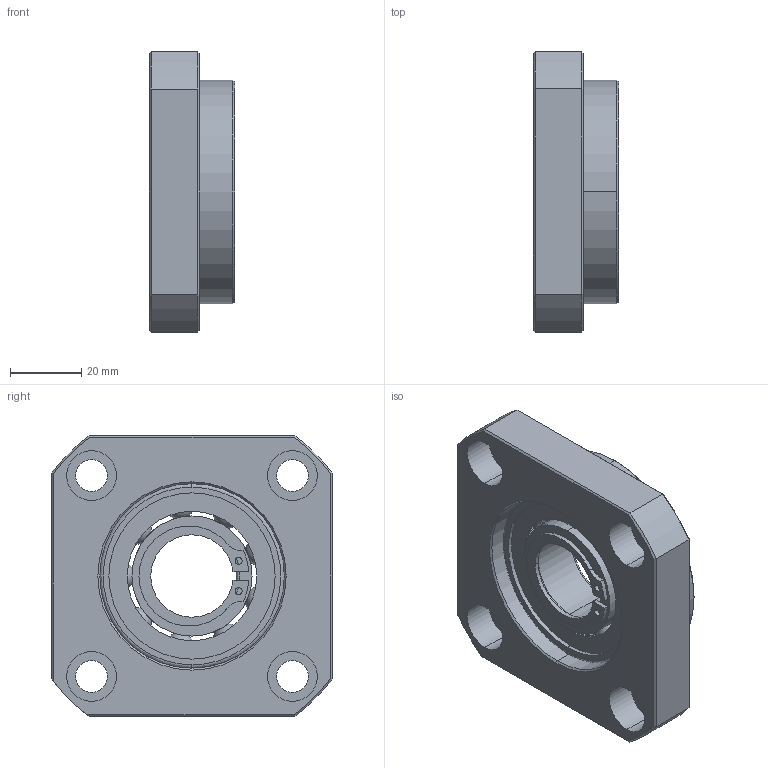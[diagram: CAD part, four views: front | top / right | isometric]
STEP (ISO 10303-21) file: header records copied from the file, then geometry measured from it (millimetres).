
FILE_DESCRIPTION (( 'STEP AP214' ), '1' );
FILE_NAME ('7.4027 FF25.STEP', '2026-03-06T07:52:45', ( '' ), ( '' ), 'SwSTEP 2.0', 'SolidWorks 2025', '' );
FILE_SCHEMA (( 'AUTOMOTIVE_DESIGN' ));
Length unit declared in the file: millimetre
Products named in the file (1): 7.4027 FF25
Bounding box: 24 x 79 x 79 mm (x, y, z)
Volume: 72954.7 mm3; surface area: 33491.2 mm2
Topology: 3 solids, 3 shells, 296 faces, 927 edges, 596 vertices
Faces by surface type: sphere 89, plane 78, cylinder 60, bspline 56, cone 13
Entity records: 17236 total; most frequent: CARTESIAN_POINT 7657, ORIENTED_EDGE 1748, DIRECTION 1340, EDGE_CURVE 874, AXIS2_PLACEMENT_3D 579, VERTEX_POINT 579, EDGE_LOOP 343, CIRCLE 338
